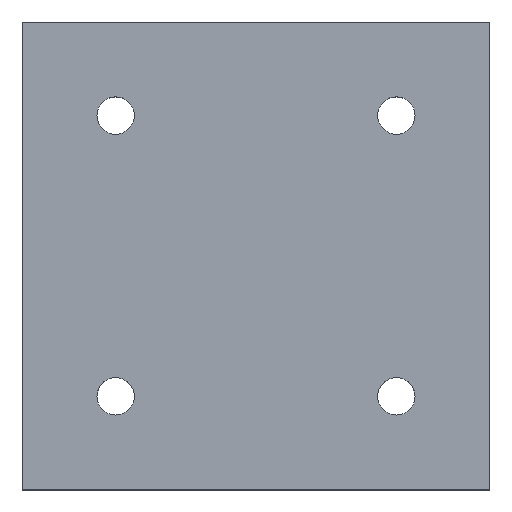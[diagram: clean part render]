
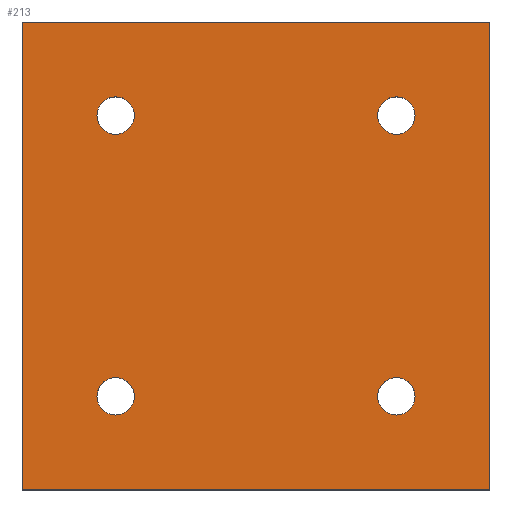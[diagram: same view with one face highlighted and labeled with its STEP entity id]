
A CAD part, top view. The second image highlights one B-rep face of the part: STEP entity #213.
In plain terms, the highlighted planar face has unit normal (0, 0, 1).
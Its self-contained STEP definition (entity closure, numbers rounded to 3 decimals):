
#24 = VERTEX_POINT('',#25);
#25 = CARTESIAN_POINT('',(-20.,-20.,2.));
#32 = PLANE('',#33);
#33 = AXIS2_PLACEMENT_3D('',#34,#35,#36);
#34 = CARTESIAN_POINT('',(-20.,-20.,-2.));
#35 = DIRECTION('',(1.,0.,-0.));
#36 = DIRECTION('',(0.,0.,1.));
#44 = PLANE('',#45);
#45 = AXIS2_PLACEMENT_3D('',#46,#47,#48);
#46 = CARTESIAN_POINT('',(-20.,-20.,-2.));
#47 = DIRECTION('',(-0.,1.,0.));
#48 = DIRECTION('',(0.,0.,1.));
#85 = VERTEX_POINT('',#86);
#86 = CARTESIAN_POINT('',(-20.,20.,2.));
#100 = PLANE('',#101);
#101 = AXIS2_PLACEMENT_3D('',#102,#103,#104);
#102 = CARTESIAN_POINT('',(-20.,20.,-2.));
#103 = DIRECTION('',(-0.,1.,0.));
#104 = DIRECTION('',(0.,0.,1.));
#112 = EDGE_CURVE('',#24,#85,#113,.T.);
#113 = SURFACE_CURVE('',#114,(#118,#125),.PCURVE_S1.);
#114 = LINE('',#115,#116);
#115 = CARTESIAN_POINT('',(-20.,-20.,2.));
#116 = VECTOR('',#117,1.);
#117 = DIRECTION('',(-0.,1.,0.));
#118 = PCURVE('',#32,#119);
#119 = DEFINITIONAL_REPRESENTATION('',(#120),#124);
#120 = LINE('',#121,#122);
#121 = CARTESIAN_POINT('',(4.,0.));
#122 = VECTOR('',#123,1.);
#123 = DIRECTION('',(0.,-1.));
#124 = ( GEOMETRIC_REPRESENTATION_CONTEXT(2) 
PARAMETRIC_REPRESENTATION_CONTEXT() REPRESENTATION_CONTEXT('2D SPACE',''
  ) );
#125 = PCURVE('',#126,#131);
#126 = PLANE('',#127);
#127 = AXIS2_PLACEMENT_3D('',#128,#129,#130);
#128 = CARTESIAN_POINT('',(-20.,-20.,2.));
#129 = DIRECTION('',(0.,0.,1.));
#130 = DIRECTION('',(1.,0.,-0.));
#131 = DEFINITIONAL_REPRESENTATION('',(#132),#136);
#132 = LINE('',#133,#134);
#133 = CARTESIAN_POINT('',(0.,0.));
#134 = VECTOR('',#135,1.);
#135 = DIRECTION('',(0.,1.));
#136 = ( GEOMETRIC_REPRESENTATION_CONTEXT(2) 
PARAMETRIC_REPRESENTATION_CONTEXT() REPRESENTATION_CONTEXT('2D SPACE',''
  ) );
#165 = EDGE_CURVE('',#24,#166,#168,.T.);
#166 = VERTEX_POINT('',#167);
#167 = CARTESIAN_POINT('',(20.,-20.,2.));
#168 = SURFACE_CURVE('',#169,(#173,#180),.PCURVE_S1.);
#169 = LINE('',#170,#171);
#170 = CARTESIAN_POINT('',(-20.,-20.,2.));
#171 = VECTOR('',#172,1.);
#172 = DIRECTION('',(1.,0.,-0.));
#173 = PCURVE('',#44,#174);
#174 = DEFINITIONAL_REPRESENTATION('',(#175),#179);
#175 = LINE('',#176,#177);
#176 = CARTESIAN_POINT('',(4.,0.));
#177 = VECTOR('',#178,1.);
#178 = DIRECTION('',(0.,1.));
#179 = ( GEOMETRIC_REPRESENTATION_CONTEXT(2) 
PARAMETRIC_REPRESENTATION_CONTEXT() REPRESENTATION_CONTEXT('2D SPACE',''
  ) );
#180 = PCURVE('',#126,#181);
#181 = DEFINITIONAL_REPRESENTATION('',(#182),#186);
#182 = LINE('',#183,#184);
#183 = CARTESIAN_POINT('',(0.,0.));
#184 = VECTOR('',#185,1.);
#185 = DIRECTION('',(1.,0.));
#186 = ( GEOMETRIC_REPRESENTATION_CONTEXT(2) 
PARAMETRIC_REPRESENTATION_CONTEXT() REPRESENTATION_CONTEXT('2D SPACE',''
  ) );
#202 = PLANE('',#203);
#203 = AXIS2_PLACEMENT_3D('',#204,#205,#206);
#204 = CARTESIAN_POINT('',(20.,-20.,-2.));
#205 = DIRECTION('',(1.,0.,-0.));
#206 = DIRECTION('',(0.,0.,1.));
#213 = ADVANCED_FACE('',(#214,#262,#293,#324,#355),#126,.T.);
#214 = FACE_BOUND('',#215,.T.);
#215 = EDGE_LOOP('',(#216,#217,#218,#241));
#216 = ORIENTED_EDGE('',*,*,#112,.F.);
#217 = ORIENTED_EDGE('',*,*,#165,.T.);
#218 = ORIENTED_EDGE('',*,*,#219,.T.);
#219 = EDGE_CURVE('',#166,#220,#222,.T.);
#220 = VERTEX_POINT('',#221);
#221 = CARTESIAN_POINT('',(20.,20.,2.));
#222 = SURFACE_CURVE('',#223,(#227,#234),.PCURVE_S1.);
#223 = LINE('',#224,#225);
#224 = CARTESIAN_POINT('',(20.,-20.,2.));
#225 = VECTOR('',#226,1.);
#226 = DIRECTION('',(-0.,1.,0.));
#227 = PCURVE('',#126,#228);
#228 = DEFINITIONAL_REPRESENTATION('',(#229),#233);
#229 = LINE('',#230,#231);
#230 = CARTESIAN_POINT('',(40.,0.));
#231 = VECTOR('',#232,1.);
#232 = DIRECTION('',(0.,1.));
#233 = ( GEOMETRIC_REPRESENTATION_CONTEXT(2) 
PARAMETRIC_REPRESENTATION_CONTEXT() REPRESENTATION_CONTEXT('2D SPACE',''
  ) );
#234 = PCURVE('',#202,#235);
#235 = DEFINITIONAL_REPRESENTATION('',(#236),#240);
#236 = LINE('',#237,#238);
#237 = CARTESIAN_POINT('',(4.,0.));
#238 = VECTOR('',#239,1.);
#239 = DIRECTION('',(0.,-1.));
#240 = ( GEOMETRIC_REPRESENTATION_CONTEXT(2) 
PARAMETRIC_REPRESENTATION_CONTEXT() REPRESENTATION_CONTEXT('2D SPACE',''
  ) );
#241 = ORIENTED_EDGE('',*,*,#242,.F.);
#242 = EDGE_CURVE('',#85,#220,#243,.T.);
#243 = SURFACE_CURVE('',#244,(#248,#255),.PCURVE_S1.);
#244 = LINE('',#245,#246);
#245 = CARTESIAN_POINT('',(-20.,20.,2.));
#246 = VECTOR('',#247,1.);
#247 = DIRECTION('',(1.,0.,-0.));
#248 = PCURVE('',#126,#249);
#249 = DEFINITIONAL_REPRESENTATION('',(#250),#254);
#250 = LINE('',#251,#252);
#251 = CARTESIAN_POINT('',(0.,40.));
#252 = VECTOR('',#253,1.);
#253 = DIRECTION('',(1.,0.));
#254 = ( GEOMETRIC_REPRESENTATION_CONTEXT(2) 
PARAMETRIC_REPRESENTATION_CONTEXT() REPRESENTATION_CONTEXT('2D SPACE',''
  ) );
#255 = PCURVE('',#100,#256);
#256 = DEFINITIONAL_REPRESENTATION('',(#257),#261);
#257 = LINE('',#258,#259);
#258 = CARTESIAN_POINT('',(4.,0.));
#259 = VECTOR('',#260,1.);
#260 = DIRECTION('',(0.,1.));
#261 = ( GEOMETRIC_REPRESENTATION_CONTEXT(2) 
PARAMETRIC_REPRESENTATION_CONTEXT() REPRESENTATION_CONTEXT('2D SPACE',''
  ) );
#262 = FACE_BOUND('',#263,.T.);
#263 = EDGE_LOOP('',(#264));
#264 = ORIENTED_EDGE('',*,*,#265,.F.);
#265 = EDGE_CURVE('',#266,#266,#268,.T.);
#266 = VERTEX_POINT('',#267);
#267 = CARTESIAN_POINT('',(-10.4,-12.,2.));
#268 = SURFACE_CURVE('',#269,(#274,#281),.PCURVE_S1.);
#269 = CIRCLE('',#270,1.6);
#270 = AXIS2_PLACEMENT_3D('',#271,#272,#273);
#271 = CARTESIAN_POINT('',(-12.,-12.,2.));
#272 = DIRECTION('',(0.,0.,1.));
#273 = DIRECTION('',(1.,0.,-0.));
#274 = PCURVE('',#126,#275);
#275 = DEFINITIONAL_REPRESENTATION('',(#276),#280);
#276 = CIRCLE('',#277,1.6);
#277 = AXIS2_PLACEMENT_2D('',#278,#279);
#278 = CARTESIAN_POINT('',(8.,8.));
#279 = DIRECTION('',(1.,0.));
#280 = ( GEOMETRIC_REPRESENTATION_CONTEXT(2) 
PARAMETRIC_REPRESENTATION_CONTEXT() REPRESENTATION_CONTEXT('2D SPACE',''
  ) );
#281 = PCURVE('',#282,#287);
#282 = CYLINDRICAL_SURFACE('',#283,1.6);
#283 = AXIS2_PLACEMENT_3D('',#284,#285,#286);
#284 = CARTESIAN_POINT('',(-12.,-12.,-4.));
#285 = DIRECTION('',(0.,0.,1.));
#286 = DIRECTION('',(1.,0.,0.));
#287 = DEFINITIONAL_REPRESENTATION('',(#288),#292);
#288 = LINE('',#289,#290);
#289 = CARTESIAN_POINT('',(0.,6.));
#290 = VECTOR('',#291,1.);
#291 = DIRECTION('',(1.,0.));
#292 = ( GEOMETRIC_REPRESENTATION_CONTEXT(2) 
PARAMETRIC_REPRESENTATION_CONTEXT() REPRESENTATION_CONTEXT('2D SPACE',''
  ) );
#293 = FACE_BOUND('',#294,.T.);
#294 = EDGE_LOOP('',(#295));
#295 = ORIENTED_EDGE('',*,*,#296,.F.);
#296 = EDGE_CURVE('',#297,#297,#299,.T.);
#297 = VERTEX_POINT('',#298);
#298 = CARTESIAN_POINT('',(13.6,-12.,2.));
#299 = SURFACE_CURVE('',#300,(#305,#312),.PCURVE_S1.);
#300 = CIRCLE('',#301,1.6);
#301 = AXIS2_PLACEMENT_3D('',#302,#303,#304);
#302 = CARTESIAN_POINT('',(12.,-12.,2.));
#303 = DIRECTION('',(0.,0.,1.));
#304 = DIRECTION('',(1.,0.,-0.));
#305 = PCURVE('',#126,#306);
#306 = DEFINITIONAL_REPRESENTATION('',(#307),#311);
#307 = CIRCLE('',#308,1.6);
#308 = AXIS2_PLACEMENT_2D('',#309,#310);
#309 = CARTESIAN_POINT('',(32.,8.));
#310 = DIRECTION('',(1.,0.));
#311 = ( GEOMETRIC_REPRESENTATION_CONTEXT(2) 
PARAMETRIC_REPRESENTATION_CONTEXT() REPRESENTATION_CONTEXT('2D SPACE',''
  ) );
#312 = PCURVE('',#313,#318);
#313 = CYLINDRICAL_SURFACE('',#314,1.6);
#314 = AXIS2_PLACEMENT_3D('',#315,#316,#317);
#315 = CARTESIAN_POINT('',(12.,-12.,-4.));
#316 = DIRECTION('',(0.,0.,1.));
#317 = DIRECTION('',(1.,0.,0.));
#318 = DEFINITIONAL_REPRESENTATION('',(#319),#323);
#319 = LINE('',#320,#321);
#320 = CARTESIAN_POINT('',(0.,6.));
#321 = VECTOR('',#322,1.);
#322 = DIRECTION('',(1.,0.));
#323 = ( GEOMETRIC_REPRESENTATION_CONTEXT(2) 
PARAMETRIC_REPRESENTATION_CONTEXT() REPRESENTATION_CONTEXT('2D SPACE',''
  ) );
#324 = FACE_BOUND('',#325,.T.);
#325 = EDGE_LOOP('',(#326));
#326 = ORIENTED_EDGE('',*,*,#327,.F.);
#327 = EDGE_CURVE('',#328,#328,#330,.T.);
#328 = VERTEX_POINT('',#329);
#329 = CARTESIAN_POINT('',(-10.4,12.,2.));
#330 = SURFACE_CURVE('',#331,(#336,#343),.PCURVE_S1.);
#331 = CIRCLE('',#332,1.6);
#332 = AXIS2_PLACEMENT_3D('',#333,#334,#335);
#333 = CARTESIAN_POINT('',(-12.,12.,2.));
#334 = DIRECTION('',(0.,0.,1.));
#335 = DIRECTION('',(1.,0.,-0.));
#336 = PCURVE('',#126,#337);
#337 = DEFINITIONAL_REPRESENTATION('',(#338),#342);
#338 = CIRCLE('',#339,1.6);
#339 = AXIS2_PLACEMENT_2D('',#340,#341);
#340 = CARTESIAN_POINT('',(8.,32.));
#341 = DIRECTION('',(1.,0.));
#342 = ( GEOMETRIC_REPRESENTATION_CONTEXT(2) 
PARAMETRIC_REPRESENTATION_CONTEXT() REPRESENTATION_CONTEXT('2D SPACE',''
  ) );
#343 = PCURVE('',#344,#349);
#344 = CYLINDRICAL_SURFACE('',#345,1.6);
#345 = AXIS2_PLACEMENT_3D('',#346,#347,#348);
#346 = CARTESIAN_POINT('',(-12.,12.,-4.));
#347 = DIRECTION('',(0.,0.,1.));
#348 = DIRECTION('',(1.,0.,0.));
#349 = DEFINITIONAL_REPRESENTATION('',(#350),#354);
#350 = LINE('',#351,#352);
#351 = CARTESIAN_POINT('',(0.,6.));
#352 = VECTOR('',#353,1.);
#353 = DIRECTION('',(1.,0.));
#354 = ( GEOMETRIC_REPRESENTATION_CONTEXT(2) 
PARAMETRIC_REPRESENTATION_CONTEXT() REPRESENTATION_CONTEXT('2D SPACE',''
  ) );
#355 = FACE_BOUND('',#356,.T.);
#356 = EDGE_LOOP('',(#357));
#357 = ORIENTED_EDGE('',*,*,#358,.F.);
#358 = EDGE_CURVE('',#359,#359,#361,.T.);
#359 = VERTEX_POINT('',#360);
#360 = CARTESIAN_POINT('',(13.6,12.,2.));
#361 = SURFACE_CURVE('',#362,(#367,#374),.PCURVE_S1.);
#362 = CIRCLE('',#363,1.6);
#363 = AXIS2_PLACEMENT_3D('',#364,#365,#366);
#364 = CARTESIAN_POINT('',(12.,12.,2.));
#365 = DIRECTION('',(0.,0.,1.));
#366 = DIRECTION('',(1.,0.,-0.));
#367 = PCURVE('',#126,#368);
#368 = DEFINITIONAL_REPRESENTATION('',(#369),#373);
#369 = CIRCLE('',#370,1.6);
#370 = AXIS2_PLACEMENT_2D('',#371,#372);
#371 = CARTESIAN_POINT('',(32.,32.));
#372 = DIRECTION('',(1.,0.));
#373 = ( GEOMETRIC_REPRESENTATION_CONTEXT(2) 
PARAMETRIC_REPRESENTATION_CONTEXT() REPRESENTATION_CONTEXT('2D SPACE',''
  ) );
#374 = PCURVE('',#375,#380);
#375 = CYLINDRICAL_SURFACE('',#376,1.6);
#376 = AXIS2_PLACEMENT_3D('',#377,#378,#379);
#377 = CARTESIAN_POINT('',(12.,12.,-4.));
#378 = DIRECTION('',(0.,0.,1.));
#379 = DIRECTION('',(1.,0.,0.));
#380 = DEFINITIONAL_REPRESENTATION('',(#381),#385);
#381 = LINE('',#382,#383);
#382 = CARTESIAN_POINT('',(0.,6.));
#383 = VECTOR('',#384,1.);
#384 = DIRECTION('',(1.,0.));
#385 = ( GEOMETRIC_REPRESENTATION_CONTEXT(2) 
PARAMETRIC_REPRESENTATION_CONTEXT() REPRESENTATION_CONTEXT('2D SPACE',''
  ) );
